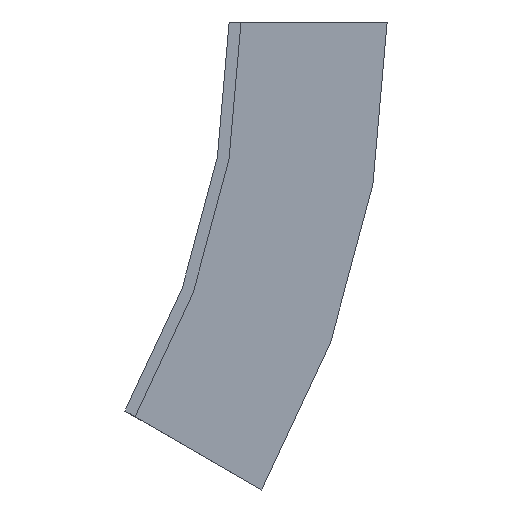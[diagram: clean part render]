
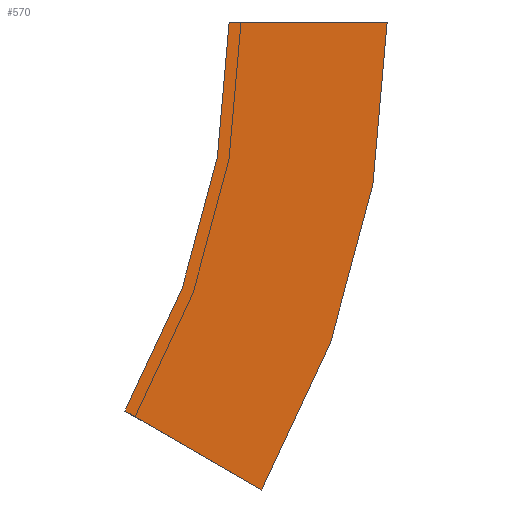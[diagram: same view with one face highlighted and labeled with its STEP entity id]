
A CAD part, left-side view. The second image highlights one B-rep face of the part: STEP entity #570.
In plain terms, the highlighted planar face has unit normal (-1, 0, 0).
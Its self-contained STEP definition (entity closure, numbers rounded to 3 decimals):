
#61 = VECTOR ( 'NONE', #387, 1000. ) ;
#68 = DIRECTION ( 'NONE',  ( 0., 0., -1. ) ) ;
#72 = CIRCLE ( 'NONE', #409, 118.5 ) ;
#76 = CARTESIAN_POINT ( 'NONE',  ( -253.5, -20., 0. ) ) ;
#77 = CARTESIAN_POINT ( 'NONE',  ( -253.5, -4.124, -59.25 ) ) ;
#86 = DIRECTION ( 'NONE',  ( 0., 0., 1. ) ) ;
#88 = EDGE_LOOP ( 'NONE', ( #340, #312, #261, #373 ) ) ;
#104 = AXIS2_PLACEMENT_3D ( 'NONE', #607, #601, #86 ) ;
#107 = EDGE_CURVE ( 'NONE', #267, #374, #593, .T. ) ;
#113 = EDGE_CURVE ( 'NONE', #255, #508, #447, .T. ) ;
#116 = DIRECTION ( 'NONE',  ( 0., 0.866, 0.5 ) ) ;
#134 = FACE_OUTER_BOUND ( 'NONE', #88, .T. ) ;
#138 = DIRECTION ( 'NONE',  ( -1., 0., 0. ) ) ;
#165 = CARTESIAN_POINT ( 'NONE',  ( -253.5, 13.196, -49.25 ) ) ;
#240 = CARTESIAN_POINT ( 'NONE',  ( -253.5, 98.5, 0. ) ) ;
#254 = CARTESIAN_POINT ( 'NONE',  ( -253.5, 0., 0. ) ) ;
#255 = VERTEX_POINT ( 'NONE', #351 ) ;
#261 = ORIENTED_EDGE ( 'NONE', *, *, #113, .F. ) ;
#266 = DIRECTION ( 'NONE',  ( 0., 0., 1. ) ) ;
#267 = VERTEX_POINT ( 'NONE', #367 ) ;
#278 = EDGE_CURVE ( 'NONE', #374, #255, #439, .T. ) ;
#307 = CARTESIAN_POINT ( 'NONE',  ( -253.5, 98.5, 0. ) ) ;
#312 = ORIENTED_EDGE ( 'NONE', *, *, #470, .F. ) ;
#317 = VECTOR ( 'NONE', #116, 1000. ) ;
#334 = AXIS2_PLACEMENT_3D ( 'NONE', #307, #138, #266 ) ;
#340 = ORIENTED_EDGE ( 'NONE', *, *, #107, .F. ) ;
#343 = DIRECTION ( 'NONE',  ( 1., 0., 0. ) ) ;
#351 = CARTESIAN_POINT ( 'NONE',  ( -253.5, 0., 0. ) ) ;
#367 = CARTESIAN_POINT ( 'NONE',  ( -253.5, -4.124, -59.25 ) ) ;
#373 = ORIENTED_EDGE ( 'NONE', *, *, #278, .F. ) ;
#374 = VERTEX_POINT ( 'NONE', #165 ) ;
#387 = DIRECTION ( 'NONE',  ( 0., -1., 0. ) ) ;
#409 = AXIS2_PLACEMENT_3D ( 'NONE', #240, #343, #68 ) ;
#413 = PLANE ( 'NONE',  #104 ) ;
#439 = CIRCLE ( 'NONE', #334, 98.5 ) ;
#447 = LINE ( 'NONE', #254, #61 ) ;
#470 = EDGE_CURVE ( 'NONE', #508, #267, #72, .T. ) ;
#508 = VERTEX_POINT ( 'NONE', #76 ) ;
#570 = ADVANCED_FACE ( 'NONE', ( #134 ), #413, .T. ) ;
#593 = LINE ( 'NONE', #77, #317 ) ;
#601 = DIRECTION ( 'NONE',  ( -1., 0., 0. ) ) ;
#607 = CARTESIAN_POINT ( 'NONE',  ( -253.5, 98.5, 0. ) ) ;
